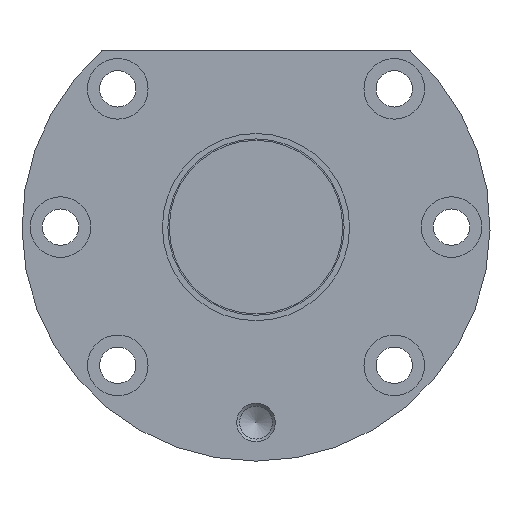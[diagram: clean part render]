
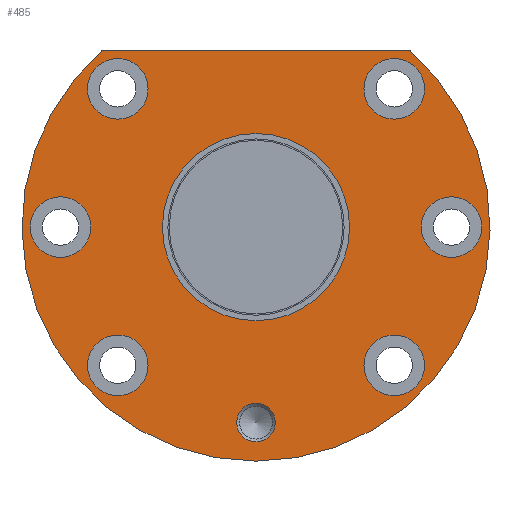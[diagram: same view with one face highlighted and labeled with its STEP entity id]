
A CAD part, left-side view. The second image highlights one B-rep face of the part: STEP entity #485.
In plain terms, the highlighted planar face has unit normal (-1, 0, 0).
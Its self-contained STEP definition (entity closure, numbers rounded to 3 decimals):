
#349=CARTESIAN_POINT('',(300.619,3.5,-35.5));
#350=VERTEX_POINT('',#349);
#351=CARTESIAN_POINT('',(300.619,0.,-35.5));
#352=DIRECTION('',(-1.0,0.0,0.0));
#353=DIRECTION('',(0.0,-1.0,0.0));
#354=AXIS2_PLACEMENT_3D('',#351,#352,#353);
#355=CIRCLE('',#354,3.5);
#356=EDGE_CURVE('',#350,#350,#355,.T.);
#381=CARTESIAN_POINT('',(300.619,23.,0.0));
#382=DIRECTION('',(-1.0,0.0,0.0));
#383=DIRECTION('',(0.0,0.0,1.0));
#384=AXIS2_PLACEMENT_3D('',#381,#382,#383);
#385=PLANE('',#384);
#386=CARTESIAN_POINT('',(300.619,27.969,32.));
#387=VERTEX_POINT('',#386);
#388=CARTESIAN_POINT('',(300.619,-27.969,32.));
#389=VERTEX_POINT('',#388);
#390=CARTESIAN_POINT('',(300.619,27.969,32.));
#391=DIRECTION('',(0.0,-1.0,0.0));
#392=VECTOR('',#391,55.937);
#393=LINE('',#390,#392);
#394=EDGE_CURVE('',#387,#389,#393,.T.);
#395=ORIENTED_EDGE('',*,*,#394,.F.);
#396=CARTESIAN_POINT('',(300.619,0.,0.0));
#397=DIRECTION('',(1.0,0.0,0.0));
#398=DIRECTION('',(0.0,1.0,0.0));
#399=AXIS2_PLACEMENT_3D('',#396,#397,#398);
#400=CIRCLE('',#399,42.5);
#401=EDGE_CURVE('',#389,#387,#400,.T.);
#402=ORIENTED_EDGE('',*,*,#401,.F.);
#403=EDGE_LOOP('',(#395,#402));
#404=FACE_OUTER_BOUND('',#403,.T.);
#405=CARTESIAN_POINT('',(300.619,17.,0.0));
#406=VERTEX_POINT('',#405);
#407=CARTESIAN_POINT('',(300.619,0.,0.0));
#408=DIRECTION('',(1.0,0.0,0.0));
#409=DIRECTION('',(0.0,1.0,0.0));
#410=AXIS2_PLACEMENT_3D('',#407,#408,#409);
#411=CIRCLE('',#410,17.);
#412=EDGE_CURVE('',#406,#406,#411,.T.);
#413=ORIENTED_EDGE('',*,*,#412,.T.);
#414=EDGE_LOOP('',(#413));
#415=FACE_BOUND('',#414,.T.);
#416=CARTESIAN_POINT('',(300.619,30.602,25.102));
#417=VERTEX_POINT('',#416);
#418=CARTESIAN_POINT('',(300.619,25.102,25.102));
#419=DIRECTION('',(1.0,0.0,0.0));
#420=DIRECTION('',(0.0,1.0,0.0));
#421=AXIS2_PLACEMENT_3D('',#418,#419,#420);
#422=CIRCLE('',#421,5.5);
#423=EDGE_CURVE('',#417,#417,#422,.T.);
#424=ORIENTED_EDGE('',*,*,#423,.T.);
#425=EDGE_LOOP('',(#424));
#426=FACE_BOUND('',#425,.T.);
#427=CARTESIAN_POINT('',(300.619,30.602,-25.102));
#428=VERTEX_POINT('',#427);
#429=CARTESIAN_POINT('',(300.619,25.102,-25.102));
#430=DIRECTION('',(1.0,0.0,0.0));
#431=DIRECTION('',(0.0,1.0,0.0));
#432=AXIS2_PLACEMENT_3D('',#429,#430,#431);
#433=CIRCLE('',#432,5.5);
#434=EDGE_CURVE('',#428,#428,#433,.T.);
#435=ORIENTED_EDGE('',*,*,#434,.T.);
#436=EDGE_LOOP('',(#435));
#437=FACE_BOUND('',#436,.T.);
#438=CARTESIAN_POINT('',(300.619,-30.0,0.));
#439=VERTEX_POINT('',#438);
#440=CARTESIAN_POINT('',(300.619,-35.5,0.));
#441=DIRECTION('',(1.0,0.0,0.0));
#442=DIRECTION('',(0.0,1.0,0.0));
#443=AXIS2_PLACEMENT_3D('',#440,#441,#442);
#444=CIRCLE('',#443,5.5);
#445=EDGE_CURVE('',#439,#439,#444,.T.);
#446=ORIENTED_EDGE('',*,*,#445,.T.);
#447=EDGE_LOOP('',(#446));
#448=FACE_BOUND('',#447,.T.);
#449=CARTESIAN_POINT('',(300.619,-19.602,25.102));
#450=VERTEX_POINT('',#449);
#451=CARTESIAN_POINT('',(300.619,-25.102,25.102));
#452=DIRECTION('',(1.0,0.0,0.0));
#453=DIRECTION('',(0.0,1.0,0.0));
#454=AXIS2_PLACEMENT_3D('',#451,#452,#453);
#455=CIRCLE('',#454,5.5);
#456=EDGE_CURVE('',#450,#450,#455,.T.);
#457=ORIENTED_EDGE('',*,*,#456,.T.);
#458=EDGE_LOOP('',(#457));
#459=FACE_BOUND('',#458,.T.);
#460=CARTESIAN_POINT('',(300.619,-19.602,-25.102));
#461=VERTEX_POINT('',#460);
#462=CARTESIAN_POINT('',(300.619,-25.102,-25.102));
#463=DIRECTION('',(1.0,0.0,0.0));
#464=DIRECTION('',(0.0,1.0,0.0));
#465=AXIS2_PLACEMENT_3D('',#462,#463,#464);
#466=CIRCLE('',#465,5.5);
#467=EDGE_CURVE('',#461,#461,#466,.T.);
#468=ORIENTED_EDGE('',*,*,#467,.T.);
#469=EDGE_LOOP('',(#468));
#470=FACE_BOUND('',#469,.T.);
#471=CARTESIAN_POINT('',(300.619,41.,0.));
#472=VERTEX_POINT('',#471);
#473=CARTESIAN_POINT('',(300.619,35.5,0.));
#474=DIRECTION('',(1.0,0.0,0.0));
#475=DIRECTION('',(0.0,1.0,0.0));
#476=AXIS2_PLACEMENT_3D('',#473,#474,#475);
#477=CIRCLE('',#476,5.5);
#478=EDGE_CURVE('',#472,#472,#477,.T.);
#479=ORIENTED_EDGE('',*,*,#478,.T.);
#480=EDGE_LOOP('',(#479));
#481=FACE_BOUND('',#480,.T.);
#482=ORIENTED_EDGE('',*,*,#356,.F.);
#483=EDGE_LOOP('',(#482));
#484=FACE_BOUND('',#483,.T.);
#485=ADVANCED_FACE('',(#404,#415,#426,#437,#448,#459,#470,#481,#484),#385,.T.);
